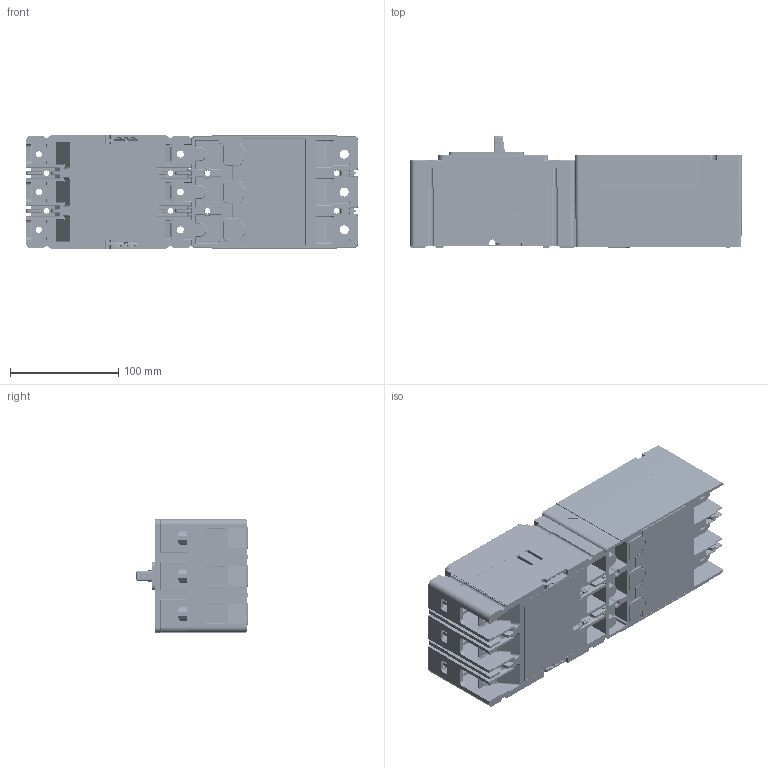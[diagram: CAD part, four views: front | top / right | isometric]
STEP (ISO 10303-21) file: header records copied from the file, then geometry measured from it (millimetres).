
FILE_DESCRIPTION((''),'2;1');
FILE_NAME('FD_BKR_JG_CL_ASM','2012-04-16T',('E0027121'),(''),'PRO/ENGINEER BY PARAMETRIC TECHNOLOGY CORPORATION, 2009460','PRO/ENGINEER BY PARAMETRIC TECHNOLOGY CORPORATION, 2009460','');
FILE_SCHEMA(('CONFIG_CONTROL_DESIGN'));
Length unit declared in the file: inch
Products named in the file (26): 1490D03_H06; 1490D13H08; 6637C16; 6620C23H03; 6640C56; 6640C01; 766A920H18; 6640C10; 4210B50_SKEL; 6640C21H10; 6648C01G26; 4210B50_ASM; 6637C16_ASSY_ONLY_OFF; FD_BRKR_ASM; 69D2780H02; 67B2780; 67B2522H03; 67B2550G03_ASM; 69D2781H02; 66A2544; 70010LX141; 70010LX17E; 66A2782H02; 67B2781H01; JG_CLG02_ASM; FD_BKR_JG_CL_ASM
Assembly tree (54 placements, depth 4):
  FD_BKR_JG_CL_ASM
    FD_BRKR_ASM
      1490D03_H06
      1490D13H08
      6637C16
      6620C23H03
      6640C56  x3
      6640C01
      766A920H18  x8
      6640C10
      4210B50_ASM  x3
        4210B50_SKEL
        6640C21H10
        6648C01G26
      6637C16_ASSY_ONLY_OFF
    JG_CLG02_ASM
      69D2780H02
      67B2780
      67B2550G03_ASM  x3
        67B2522H03
        6648C01G26
      69D2781H02
      66A2544  x3
      70010LX141  x8
      70010LX17E  x3
      66A2782H02  x3
      67B2781H01  x3
Bounding box: 306.32 x 103.2 x 104.78 mm (x, y, z)
Volume: 1056607.8 mm3; surface area: 539169.9 mm2
Topology: 53 solids, 53 shells, 7993 faces, 20724 edges, 12932 vertices
Faces by surface type: plane 4377, cylinder 2170, bspline 579, cone 350, torus 278, sphere 229, extrusion 10
Entity records: 242660 total; most frequent: CARTESIAN_POINT 70345, ORIENTED_EDGE 37250, DIRECTION 33964, EDGE_CURVE 18625, VECTOR 12420, LINE 12410, VERTEX_POINT 11655, AXIS2_PLACEMENT_3D 10772
